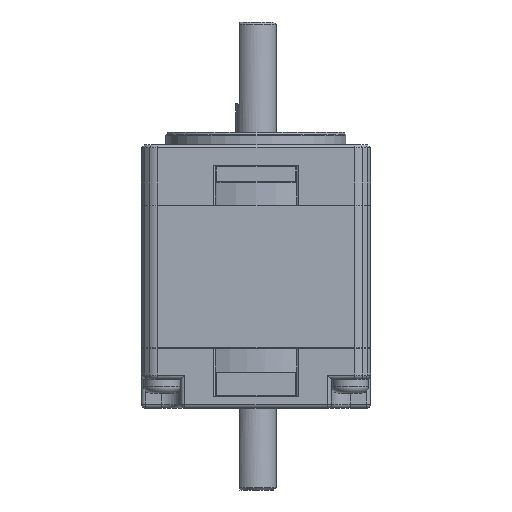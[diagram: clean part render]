
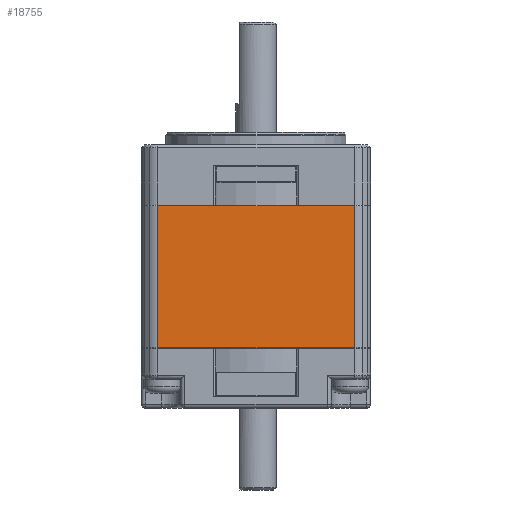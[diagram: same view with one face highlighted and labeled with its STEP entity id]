
A CAD part, front view. The second image highlights one B-rep face of the part: STEP entity #18755.
In plain terms, the highlighted planar face has unit normal (0, -1, 0).
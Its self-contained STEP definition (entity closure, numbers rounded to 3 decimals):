
#734 = VECTOR ( 'NONE', #11365, 1000. ) ;
#3286 = EDGE_LOOP ( 'NONE', ( #6042, #6044, #6043, #6045 ) ) ;
#4095 = AXIS2_PLACEMENT_3D ( 'NONE', #17156, #17157, #17158 ) ;
#5694 = VECTOR ( 'NONE', #11370, 1000. ) ;
#5696 = VECTOR ( 'NONE', #11372, 1000. ) ;
#5698 = VECTOR ( 'NONE', #11374, 1000. ) ;
#6042 = ORIENTED_EDGE ( 'NONE', *, *, #16068, .F. ) ;
#6043 = ORIENTED_EDGE ( 'NONE', *, *, #16065, .T. ) ;
#6044 = ORIENTED_EDGE ( 'NONE', *, *, #16067, .T. ) ;
#6045 = ORIENTED_EDGE ( 'NONE', *, *, #16069, .T. ) ;
#6918 = VERTEX_POINT ( 'NONE', #9163 ) ;
#6978 = VERTEX_POINT ( 'NONE', #9223 ) ;
#7109 = VERTEX_POINT ( 'NONE', #9354 ) ;
#7118 = VERTEX_POINT ( 'NONE', #9362 ) ;
#9163 = CARTESIAN_POINT ( 'NONE',  ( -12.032, -14., -0.05 ) ) ;
#9223 = CARTESIAN_POINT ( 'NONE',  ( 12.032, -14., -0.05 ) ) ;
#9354 = CARTESIAN_POINT ( 'NONE',  ( 12.032, -14., -17.4 ) ) ;
#9362 = CARTESIAN_POINT ( 'NONE',  ( -12.032, -14., -17.4 ) ) ;
#9771 = LINE ( 'NONE', #11364, #734 ) ;
#9772 = LINE ( 'NONE', #11369, #5694 ) ;
#9773 = LINE ( 'NONE', #11371, #5696 ) ;
#9774 = LINE ( 'NONE', #11373, #5698 ) ;
#11364 = CARTESIAN_POINT ( 'NONE',  ( 12.032, -14., -17.5 ) ) ;
#11365 = DIRECTION ( 'NONE',  ( 0., 0., 1. ) ) ;
#11369 = CARTESIAN_POINT ( 'NONE',  ( -12.032, -14., -17.4 ) ) ;
#11370 = DIRECTION ( 'NONE',  ( 1., 0., 0. ) ) ;
#11371 = CARTESIAN_POINT ( 'NONE',  ( -12.032, -14., -17.5 ) ) ;
#11372 = DIRECTION ( 'NONE',  ( 0., 0., 1. ) ) ;
#11373 = CARTESIAN_POINT ( 'NONE',  ( -12.032, -14., -0.05 ) ) ;
#11374 = DIRECTION ( 'NONE',  ( -1., 0., 0. ) ) ;
#16065 = EDGE_CURVE ( 'NONE', #7109, #6978, #9771, .T. ) ;
#16067 = EDGE_CURVE ( 'NONE', #7118, #7109, #9772, .T. ) ;
#16068 = EDGE_CURVE ( 'NONE', #7118, #6918, #9773, .T. ) ;
#16069 = EDGE_CURVE ( 'NONE', #6978, #6918, #9774, .T. ) ;
#17155 = PLANE ( 'NONE',  #4095 ) ;
#17156 = CARTESIAN_POINT ( 'NONE',  ( -12.032, -14., -17.5 ) ) ;
#17157 = DIRECTION ( 'NONE',  ( 0., -1., 0. ) ) ;
#17158 = DIRECTION ( 'NONE',  ( 0., 0., -1. ) ) ;
#18755 = ADVANCED_FACE ( 'NONE', ( #18851 ), #17155, .T. ) ;
#18851 = FACE_OUTER_BOUND ( 'NONE', #3286, .T. ) ;
